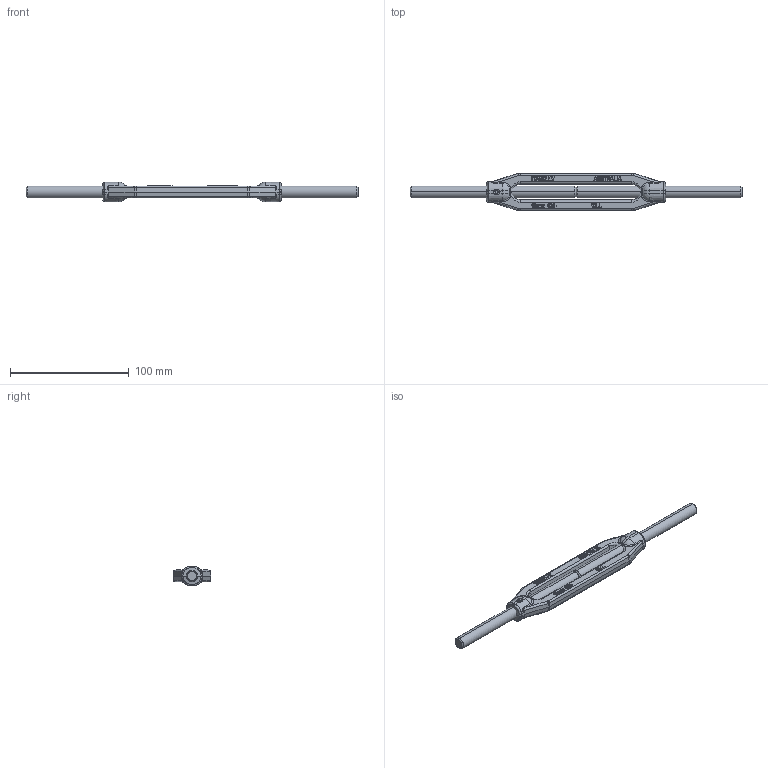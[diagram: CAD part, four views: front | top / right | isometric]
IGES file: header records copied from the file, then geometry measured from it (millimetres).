
Start section: SolidWorks IGES FILE using analytic representation for surfaces
Global section: file name: C:\Documents and Settings\Townley Workstation\Desktop\tooling\Townley products\Turn Buckles\TBG10\model\Drawings\Assembly Drawings\TBSS10\TBSS10.IGS; native system: SolidWorks 2004 by SolidWorks Corporation; preprocessor: Version 5.3; author: Townley Workstation; date: 100108.082812; units: millimetre
Bounding box: 280 x 32 x 16.6 mm (x, y, z)
Surface area: 20919.3 mm2 (no closed solid volume)
Topology: 0 solids, 0 shells, 540 faces, 5030 edges, 5022 vertices
Faces by surface type: bspline 442, revolution 98
